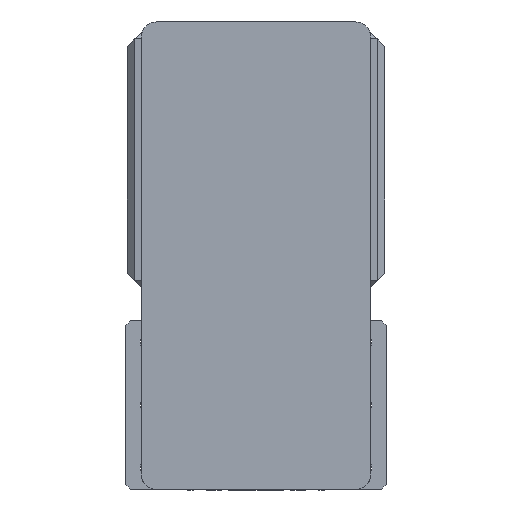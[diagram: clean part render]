
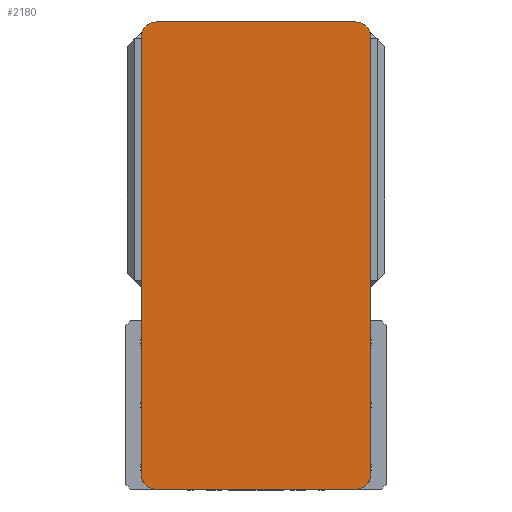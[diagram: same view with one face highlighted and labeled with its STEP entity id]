
A CAD part, left-side view. The second image highlights one B-rep face of the part: STEP entity #2180.
In plain terms, the highlighted planar face has unit normal (-1, 0, 0) as drawn and (0, 0, 1) by its records, which use the part's own axes.
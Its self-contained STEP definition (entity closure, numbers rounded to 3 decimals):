
#320 = CIRCLE ( 'NONE', #5049, 10. ) ;
#494 = VERTEX_POINT ( 'NONE', #1233 ) ;
#546 = EDGE_CURVE ( 'NONE', #5988, #557, #8819, .T. ) ;
#557 = VERTEX_POINT ( 'NONE', #3869 ) ;
#765 = EDGE_LOOP ( 'NONE', ( #3114, #2182, #2895, #7953, #1827, #5315, #10139, #7840 ) ) ;
#811 = DIRECTION ( 'NONE',  ( 1., 0., 0. ) ) ;
#824 = CIRCLE ( 'NONE', #1299, 10. ) ;
#1233 = CARTESIAN_POINT ( 'NONE',  ( 65., -152.5, 105. ) ) ;
#1299 = AXIS2_PLACEMENT_3D ( 'NONE', #3535, #9365, #4378 ) ;
#1437 = LINE ( 'NONE', #8502, #5650 ) ;
#1827 = ORIENTED_EDGE ( 'NONE', *, *, #2706, .T. ) ;
#1995 = CARTESIAN_POINT ( 'NONE',  ( -75., 142.5, 105. ) ) ;
#2129 = VECTOR ( 'NONE', #5250, 1000. ) ;
#2180 = ADVANCED_FACE ( 'NONE', ( #6626 ), #7450, .T. ) ;
#2182 = ORIENTED_EDGE ( 'NONE', *, *, #4479, .T. ) ;
#2223 = CARTESIAN_POINT ( 'NONE',  ( 75., -142.5, 105. ) ) ;
#2342 = EDGE_CURVE ( 'NONE', #5083, #10515, #824, .T. ) ;
#2379 = DIRECTION ( 'NONE',  ( 0., -1., 0. ) ) ;
#2383 = DIRECTION ( 'NONE',  ( 0., 0., 1. ) ) ;
#2419 = CARTESIAN_POINT ( 'NONE',  ( 0., 0., 105. ) ) ;
#2555 = CIRCLE ( 'NONE', #8130, 10. ) ;
#2706 = EDGE_CURVE ( 'NONE', #4408, #5083, #4615, .T. ) ;
#2895 = ORIENTED_EDGE ( 'NONE', *, *, #546, .T. ) ;
#3114 = ORIENTED_EDGE ( 'NONE', *, *, #10394, .T. ) ;
#3228 = CIRCLE ( 'NONE', #4132, 10. ) ;
#3254 = DIRECTION ( 'NONE',  ( 0., 0., 1. ) ) ;
#3446 = VERTEX_POINT ( 'NONE', #4775 ) ;
#3535 = CARTESIAN_POINT ( 'NONE',  ( -65., 142.5, 105. ) ) ;
#3567 = VECTOR ( 'NONE', #2379, 1000. ) ;
#3586 = CARTESIAN_POINT ( 'NONE',  ( 65., 152.5, 105. ) ) ;
#3765 = CARTESIAN_POINT ( 'NONE',  ( 65., -142.5, 105. ) ) ;
#3869 = CARTESIAN_POINT ( 'NONE',  ( 75., 142.5, 105. ) ) ;
#4132 = AXIS2_PLACEMENT_3D ( 'NONE', #10775, #5859, #811 ) ;
#4138 = DIRECTION ( 'NONE',  ( 0., 1., 0. ) ) ;
#4149 = EDGE_CURVE ( 'NONE', #3446, #8369, #3228, .T. ) ;
#4178 = CARTESIAN_POINT ( 'NONE',  ( -65., 152.5, 105. ) ) ;
#4203 = CARTESIAN_POINT ( 'NONE',  ( -65., -152.5, 105. ) ) ;
#4378 = DIRECTION ( 'NONE',  ( 1., 0., 0. ) ) ;
#4408 = VERTEX_POINT ( 'NONE', #3586 ) ;
#4479 = EDGE_CURVE ( 'NONE', #494, #5988, #320, .T. ) ;
#4609 = DIRECTION ( 'NONE',  ( 1., 0., 0. ) ) ;
#4615 = LINE ( 'NONE', #9418, #2129 ) ;
#4775 = CARTESIAN_POINT ( 'NONE',  ( -75., -142.5, 105. ) ) ;
#5049 = AXIS2_PLACEMENT_3D ( 'NONE', #3765, #9594, #4609 ) ;
#5083 = VERTEX_POINT ( 'NONE', #4178 ) ;
#5250 = DIRECTION ( 'NONE',  ( -1., 0., 0. ) ) ;
#5315 = ORIENTED_EDGE ( 'NONE', *, *, #2342, .T. ) ;
#5577 = EDGE_CURVE ( 'NONE', #557, #4408, #2555, .T. ) ;
#5650 = VECTOR ( 'NONE', #6858, 1000. ) ;
#5738 = CARTESIAN_POINT ( 'NONE',  ( -75., 152.5, 105. ) ) ;
#5821 = LINE ( 'NONE', #5738, #3567 ) ;
#5859 = DIRECTION ( 'NONE',  ( 0., 0., 1. ) ) ;
#5988 = VERTEX_POINT ( 'NONE', #2223 ) ;
#6023 = AXIS2_PLACEMENT_3D ( 'NONE', #2419, #3254, #9089 ) ;
#6626 = FACE_OUTER_BOUND ( 'NONE', #765, .T. ) ;
#6858 = DIRECTION ( 'NONE',  ( 1., 0., 0. ) ) ;
#7185 = CARTESIAN_POINT ( 'NONE',  ( 75., 152.5, 105. ) ) ;
#7416 = CARTESIAN_POINT ( 'NONE',  ( 65., 142.5, 105. ) ) ;
#7450 = PLANE ( 'NONE',  #6023 ) ;
#7840 = ORIENTED_EDGE ( 'NONE', *, *, #4149, .T. ) ;
#7953 = ORIENTED_EDGE ( 'NONE', *, *, #5577, .T. ) ;
#8130 = AXIS2_PLACEMENT_3D ( 'NONE', #7416, #2383, #8225 ) ;
#8198 = EDGE_CURVE ( 'NONE', #10515, #3446, #5821, .T. ) ;
#8225 = DIRECTION ( 'NONE',  ( 1., 0., 0. ) ) ;
#8369 = VERTEX_POINT ( 'NONE', #4203 ) ;
#8502 = CARTESIAN_POINT ( 'NONE',  ( -75., -152.5, 105. ) ) ;
#8559 = VECTOR ( 'NONE', #4138, 1000. ) ;
#8819 = LINE ( 'NONE', #7185, #8559 ) ;
#9089 = DIRECTION ( 'NONE',  ( 1., 0., 0. ) ) ;
#9365 = DIRECTION ( 'NONE',  ( 0., 0., 1. ) ) ;
#9418 = CARTESIAN_POINT ( 'NONE',  ( -75., 152.5, 105. ) ) ;
#9594 = DIRECTION ( 'NONE',  ( 0., 0., 1. ) ) ;
#10139 = ORIENTED_EDGE ( 'NONE', *, *, #8198, .T. ) ;
#10394 = EDGE_CURVE ( 'NONE', #8369, #494, #1437, .T. ) ;
#10515 = VERTEX_POINT ( 'NONE', #1995 ) ;
#10775 = CARTESIAN_POINT ( 'NONE',  ( -65., -142.5, 105. ) ) ;
